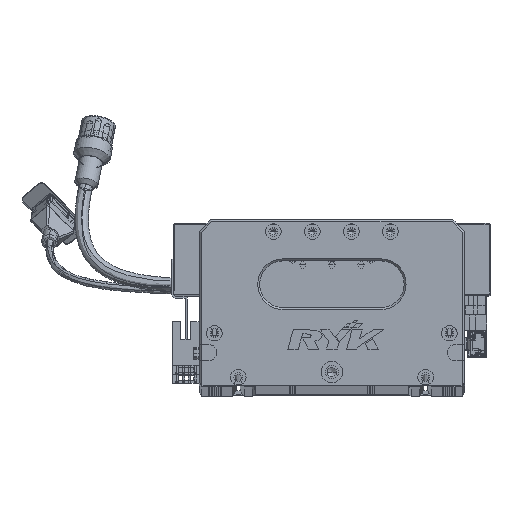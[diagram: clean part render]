
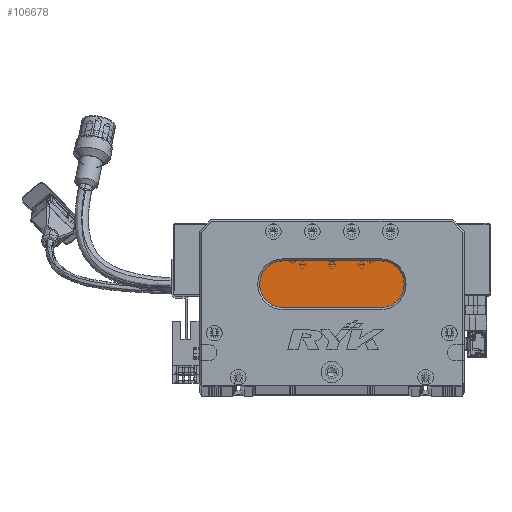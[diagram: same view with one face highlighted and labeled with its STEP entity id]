
A CAD part, top view. The second image highlights one B-rep face of the part: STEP entity #106678.
In plain terms, the highlighted planar face has unit normal (0, 0, 1) as drawn and (0, 0, -1) by its records, which use the part's own axes.
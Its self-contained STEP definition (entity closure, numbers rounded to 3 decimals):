
#5657 = CARTESIAN_POINT ( 'NONE',  ( 93., 52., 13. ) ) ;
#6997 = DIRECTION ( 'NONE',  ( 0., 0., -1. ) ) ;
#8314 = CARTESIAN_POINT ( 'NONE',  ( 43., 64., 13. ) ) ;
#9353 = EDGE_CURVE ( 'NONE', #98527, #109844, #20783, .T. ) ;
#15844 = PLANE ( 'NONE',  #122789 ) ;
#20783 = CIRCLE ( 'NONE', #33611, 12. ) ;
#20883 = VECTOR ( 'NONE', #129144, 1000. ) ;
#21991 = CARTESIAN_POINT ( 'NONE',  ( 93., 52., 13. ) ) ;
#24520 = ORIENTED_EDGE ( 'NONE', *, *, #9353, .T. ) ;
#33611 = AXIS2_PLACEMENT_3D ( 'NONE', #57320, #78455, #79375 ) ;
#38419 = CIRCLE ( 'NONE', #119981, 12. ) ;
#39208 = EDGE_LOOP ( 'NONE', ( #116077, #66860, #24520, #89530, #50342 ) ) ;
#39971 = EDGE_CURVE ( 'NONE', #68813, #91804, #123306, .T. ) ;
#41091 = CARTESIAN_POINT ( 'NONE',  ( 93., 64., 13. ) ) ;
#42703 = LINE ( 'NONE', #41091, #118414 ) ;
#48451 = CARTESIAN_POINT ( 'NONE',  ( 43., 52., 13. ) ) ;
#50342 = ORIENTED_EDGE ( 'NONE', *, *, #126249, .T. ) ;
#53921 = LINE ( 'NONE', #130057, #20883 ) ;
#56281 = VERTEX_POINT ( 'NONE', #8314 ) ;
#57320 = CARTESIAN_POINT ( 'NONE',  ( 43., 52., 13. ) ) ;
#59509 = DIRECTION ( 'NONE',  ( -1., 0., 0. ) ) ;
#59988 = CARTESIAN_POINT ( 'NONE',  ( 31., 52., 13. ) ) ;
#66860 = ORIENTED_EDGE ( 'NONE', *, *, #132553, .T. ) ;
#68813 = VERTEX_POINT ( 'NONE', #70648 ) ;
#70648 = CARTESIAN_POINT ( 'NONE',  ( 93., 64., 13. ) ) ;
#74618 = AXIS2_PLACEMENT_3D ( 'NONE', #21991, #95579, #74898 ) ;
#74898 = DIRECTION ( 'NONE',  ( -1., 0., 0. ) ) ;
#78440 = CARTESIAN_POINT ( 'NONE',  ( 93., 40., 13. ) ) ;
#78455 = DIRECTION ( 'NONE',  ( 0., 0., -1. ) ) ;
#79375 = DIRECTION ( 'NONE',  ( -1., 0., 0. ) ) ;
#84349 = EDGE_CURVE ( 'NONE', #109844, #56281, #38419, .T. ) ;
#87368 = FACE_OUTER_BOUND ( 'NONE', #39208, .T. ) ;
#89530 = ORIENTED_EDGE ( 'NONE', *, *, #84349, .T. ) ;
#91804 = VERTEX_POINT ( 'NONE', #78440 ) ;
#93823 = CARTESIAN_POINT ( 'NONE',  ( 43., 40., 13. ) ) ;
#95579 = DIRECTION ( 'NONE',  ( 0., 0., -1. ) ) ;
#98527 = VERTEX_POINT ( 'NONE', #93823 ) ;
#102255 = DIRECTION ( 'NONE',  ( 1., 0., 0. ) ) ;
#106678 = ADVANCED_FACE ( 'NONE', ( #87368 ), #15844, .T. ) ;
#109621 = DIRECTION ( 'NONE',  ( -1., 0., 0. ) ) ;
#109844 = VERTEX_POINT ( 'NONE', #59988 ) ;
#116077 = ORIENTED_EDGE ( 'NONE', *, *, #39971, .T. ) ;
#118414 = VECTOR ( 'NONE', #102255, 1000. ) ;
#119981 = AXIS2_PLACEMENT_3D ( 'NONE', #48451, #6997, #59509 ) ;
#122056 = DIRECTION ( 'NONE',  ( 0., 0., -1. ) ) ;
#122789 = AXIS2_PLACEMENT_3D ( 'NONE', #5657, #122056, #109621 ) ;
#123306 = CIRCLE ( 'NONE', #74618, 12. ) ;
#126249 = EDGE_CURVE ( 'NONE', #56281, #68813, #42703, .T. ) ;
#129144 = DIRECTION ( 'NONE',  ( -1., 0., 0. ) ) ;
#130057 = CARTESIAN_POINT ( 'NONE',  ( 93., 40., 13. ) ) ;
#132553 = EDGE_CURVE ( 'NONE', #91804, #98527, #53921, .T. ) ;
